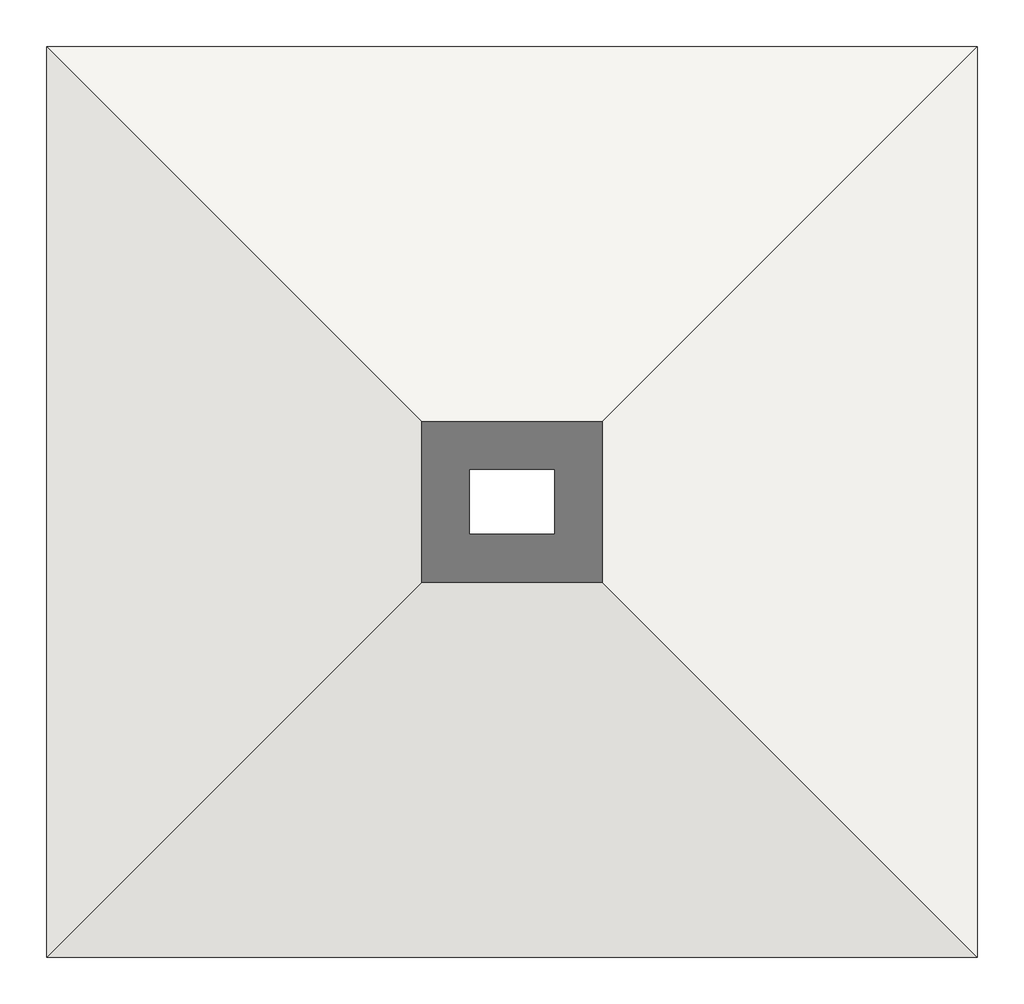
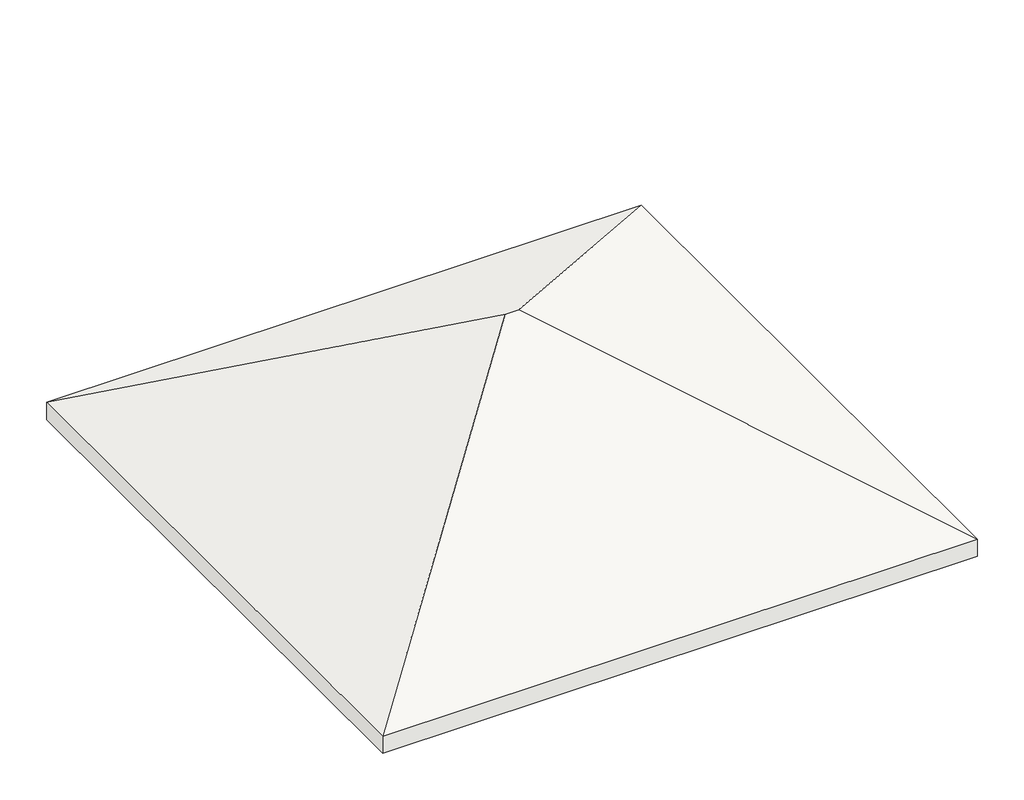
# One storey: 1 roof.
"""IFC4 building model written with IfcOpenShell, lengths in millimetres."""

from ifc_helpers import new_model, si_unit, origin, place, context, project, spatial, faceted_brep, element, save

model = new_model("IFC4")

# Units and contexts
model_context = context("Model", 3, world=origin())
ifc_project = project(units=[si_unit("LENGTHUNIT", "METRE", prefix="MILLI")], contexts=[model_context])

# Site, building, storey
site = spatial("IfcSite", under=ifc_project)
building = spatial("IfcBuilding", under=site)
storey = spatial("IfcBuildingStorey", under=building, Name="樓層 2", Elevation=3500.0)

# Roof
placement = place(None, origin())
element("IfcRoof", 1, ObjectType="一般 - 12cm", at=placement, inside=storey, context=model_context, shape_type="Brep", body=[
    faceted_brep([(-1501.9146257, 3380.3452921, 4790.3778516), (-3736.9146257, 1145.3452921, 3500.0), (-3736.9146257, 5615.3452921, 3500.0), (833.0853743, 1145.3452921, 3500.0), (-1401.9146257, 3380.3452921, 4790.3778516), (833.0853743, 5615.3452921, 3500.0), (-3736.9146257, 1145.3452921, 3638.5640646), (-1501.9146257, 3380.3452921, 4928.9419162), (-3736.9146257, 5615.3452921, 3638.5640646), (833.0853743, 1145.3452921, 3638.5640646), (833.0853743, 5615.3452921, 3638.5640646), (-1401.9146257, 3380.3452921, 4928.9419162)], [[[0, 1, 2]], [[3, 4, 5]], [[1, 0, 4, 3]], [[5, 4, 0, 2]], [[6, 7, 8]], [[9, 10, 11]], [[6, 9, 11, 7]], [[10, 8, 7, 11]], [[3, 9, 6, 1]], [[5, 10, 9, 3]], [[2, 8, 10, 5]], [[1, 6, 8, 2]]]),
])

save(model, "model.ifc")
